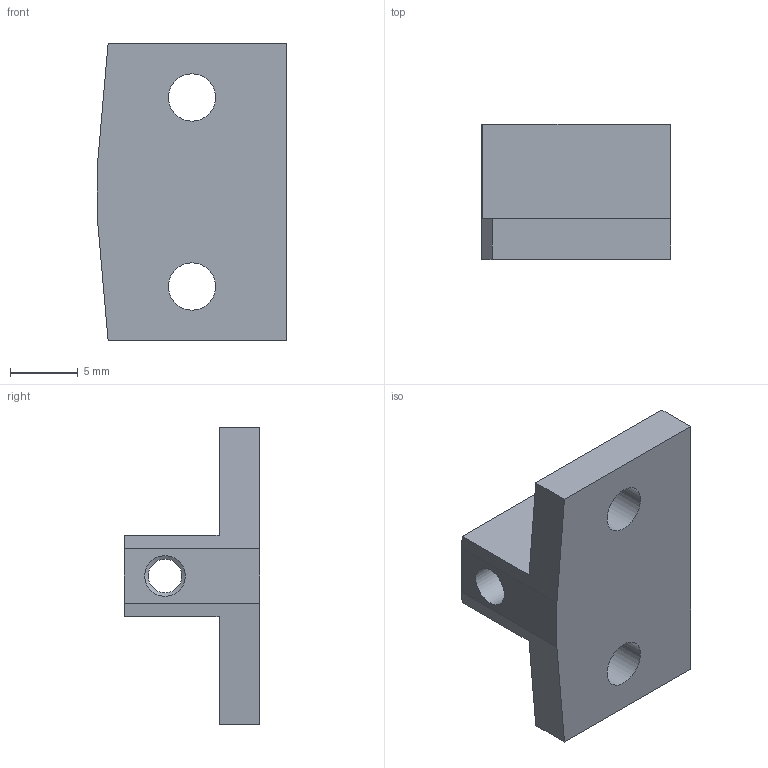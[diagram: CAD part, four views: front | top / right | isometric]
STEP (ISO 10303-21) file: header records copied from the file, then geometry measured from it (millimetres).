
FILE_DESCRIPTION(/* description */ (''),/* implementation_level */ '2;1');
FILE_NAME(/* name */ 'C:\Users\strothej\Documents\ActualDocuments\MicroscopeParts\TwoPhotonSystem\ScanningMechanics\v38\Drawings\Side_Index_Mount.stp',/* time_stamp */ '2017-11-20T10:00:10-08:00',/* author */ ('strothej'),/* organization */ (''),/* preprocessor_version */ 'ST-DEVELOPER v16.1',/* originating_system */ 'Autodesk Inventor 2016',/* authorisation */ '');
FILE_SCHEMA (('AUTOMOTIVE_DESIGN { 1 0 10303 214 3 1 1 }'));
Length unit declared in the file: millimetre
Products named in the file (1): Side_Index_Mount
Bounding box: 14 x 10 x 22 mm (x, y, z)
Volume: 1347.2 mm3; surface area: 1229.9 mm2
Topology: 1 solids, 1 shells, 19 faces, 50 edges, 33 vertices
Faces by surface type: plane 12, cylinder 5, cone 2
Full cylindrical faces by diameter (mm): 2.5 x1, 3 x2, 3.5 x2
Entity records: 560 total; most frequent: DIRECTION 90, CARTESIAN_POINT 90, ORIENTED_EDGE 80, EDGE_CURVE 40, EDGE_LOOP 32, LINE 30, VECTOR 30, VERTEX_POINT 30
